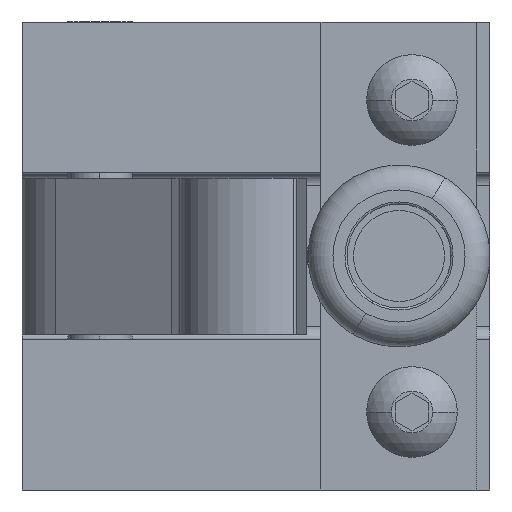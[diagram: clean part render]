
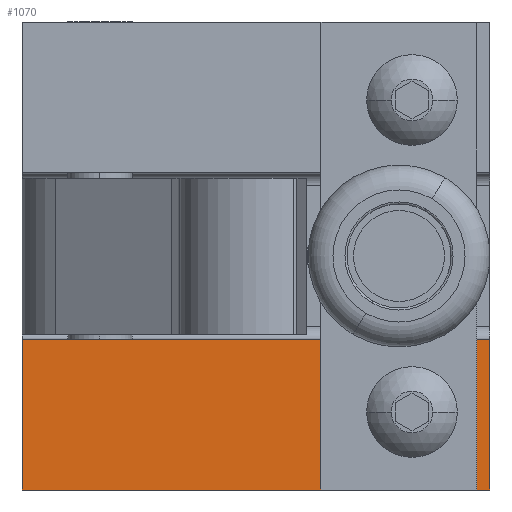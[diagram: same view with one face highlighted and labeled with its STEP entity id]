
A CAD part, left-side view. The second image highlights one B-rep face of the part: STEP entity #1070.
In plain terms, the highlighted planar face has unit normal (-1, 0, 0).
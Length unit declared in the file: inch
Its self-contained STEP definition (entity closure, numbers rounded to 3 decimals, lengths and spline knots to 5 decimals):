
#970 = EDGE_LOOP ( 'NONE', ( #971, #1120, #1139, #1142 ) ) ;
#971 = ORIENTED_EDGE ( 'NONE', *, *, #972, .F. ) ;
#972 = EDGE_CURVE ( 'NONE', #3552, #973, #9039, .T. ) ;
#973 = VERTEX_POINT ( 'NONE', #9035 ) ;
#1030 = EDGE_CURVE ( 'NONE', #1141, #973, #9367, .T. ) ;
#1070 = ADVANCED_FACE ( 'NONE', ( #9451, #9450 ), #9449, .T. ) ;
#1071 = EDGE_LOOP ( 'NONE', ( #1072, #1074 ) ) ;
#1072 = ORIENTED_EDGE ( 'NONE', *, *, #1073, .F. ) ;
#1073 = EDGE_CURVE ( 'NONE', #3770, #3767, #9445, .T. ) ;
#1074 = ORIENTED_EDGE ( 'NONE', *, *, #3769, .F. ) ;
#1120 = ORIENTED_EDGE ( 'NONE', *, *, #3641, .F. ) ;
#1139 = ORIENTED_EDGE ( 'NONE', *, *, #1140, .T. ) ;
#1140 = EDGE_CURVE ( 'NONE', #3639, #1141, #9901, .T. ) ;
#1141 = VERTEX_POINT ( 'NONE', #9987 ) ;
#1142 = ORIENTED_EDGE ( 'NONE', *, *, #1030, .T. ) ;
#3552 = VERTEX_POINT ( 'NONE', #15222 ) ;
#3639 = VERTEX_POINT ( 'NONE', #15361 ) ;
#3641 = EDGE_CURVE ( 'NONE', #3639, #3552, #15323, .T. ) ;
#3767 = VERTEX_POINT ( 'NONE', #15603 ) ;
#3769 = EDGE_CURVE ( 'NONE', #3767, #3770, #15602, .T. ) ;
#3770 = VERTEX_POINT ( 'NONE', #15597 ) ;
#9035 = CARTESIAN_POINT ( 'NONE',  ( 2.43951, 3.75404, -1.525 ) ) ;
#9036 = DIRECTION ( 'NONE',  ( 0., -1., 0. ) ) ;
#9037 = VECTOR ( 'NONE', #9036, 39.37008 ) ;
#9038 = CARTESIAN_POINT ( 'NONE',  ( 2.43951, 3.75404, -1.525 ) ) ;
#9039 = LINE ( 'NONE', #9038, #9037 ) ;
#9366 = CARTESIAN_POINT ( 'NONE',  ( 2.43951, 3.75404, -2.25 ) ) ;
#9367 = LINE ( 'NONE', #9366, #9404 ) ;
#9403 = DIRECTION ( 'NONE',  ( 0., 0., 1. ) ) ;
#9404 = VECTOR ( 'NONE', #9403, 39.37008 ) ;
#9441 = DIRECTION ( 'NONE',  ( 0., 0., 1. ) ) ;
#9442 = DIRECTION ( 'NONE',  ( -1., 0., 0. ) ) ;
#9443 = CARTESIAN_POINT ( 'NONE',  ( 2.43951, 4.12904, -1.875 ) ) ;
#9444 = AXIS2_PLACEMENT_3D ( 'NONE', #9443, #9442, #9441 ) ;
#9445 = CIRCLE ( 'NONE', #9444, 0.125 ) ;
#9449 = PLANE ( 'NONE',  #9474 ) ;
#9450 = FACE_OUTER_BOUND ( 'NONE', #970, .T. ) ;
#9451 = FACE_BOUND ( 'NONE', #1071, .T. ) ;
#9471 = DIRECTION ( 'NONE',  ( 0., 0., 1. ) ) ;
#9472 = DIRECTION ( 'NONE',  ( -1., 0., 0. ) ) ;
#9473 = CARTESIAN_POINT ( 'NONE',  ( 2.43951, 3.75404, -2.25 ) ) ;
#9474 = AXIS2_PLACEMENT_3D ( 'NONE', #9473, #9472, #9471 ) ;
#9898 = DIRECTION ( 'NONE',  ( 0., -1., 0. ) ) ;
#9899 = VECTOR ( 'NONE', #9898, 39.37008 ) ;
#9900 = CARTESIAN_POINT ( 'NONE',  ( 2.43951, 3.75404, -2.25 ) ) ;
#9901 = LINE ( 'NONE', #9900, #9899 ) ;
#9987 = CARTESIAN_POINT ( 'NONE',  ( 2.43951, 3.75404, -2.25 ) ) ;
#15222 = CARTESIAN_POINT ( 'NONE',  ( 2.43951, 6.00404, -1.525 ) ) ;
#15320 = DIRECTION ( 'NONE',  ( 0., 0., 1. ) ) ;
#15321 = VECTOR ( 'NONE', #15320, 39.37008 ) ;
#15322 = CARTESIAN_POINT ( 'NONE',  ( 2.43951, 6.00404, -2.25 ) ) ;
#15323 = LINE ( 'NONE', #15322, #15321 ) ;
#15361 = CARTESIAN_POINT ( 'NONE',  ( 2.43951, 6.00404, -2.25 ) ) ;
#15597 = CARTESIAN_POINT ( 'NONE',  ( 2.43951, 4.12904, -1.75 ) ) ;
#15598 = DIRECTION ( 'NONE',  ( 0., 0., 1. ) ) ;
#15599 = DIRECTION ( 'NONE',  ( -1., 0., 0. ) ) ;
#15600 = CARTESIAN_POINT ( 'NONE',  ( 2.43951, 4.12904, -1.875 ) ) ;
#15601 = AXIS2_PLACEMENT_3D ( 'NONE', #15600, #15599, #15598 ) ;
#15602 = CIRCLE ( 'NONE', #15601, 0.125 ) ;
#15603 = CARTESIAN_POINT ( 'NONE',  ( 2.43951, 4.12904, -2. ) ) ;
